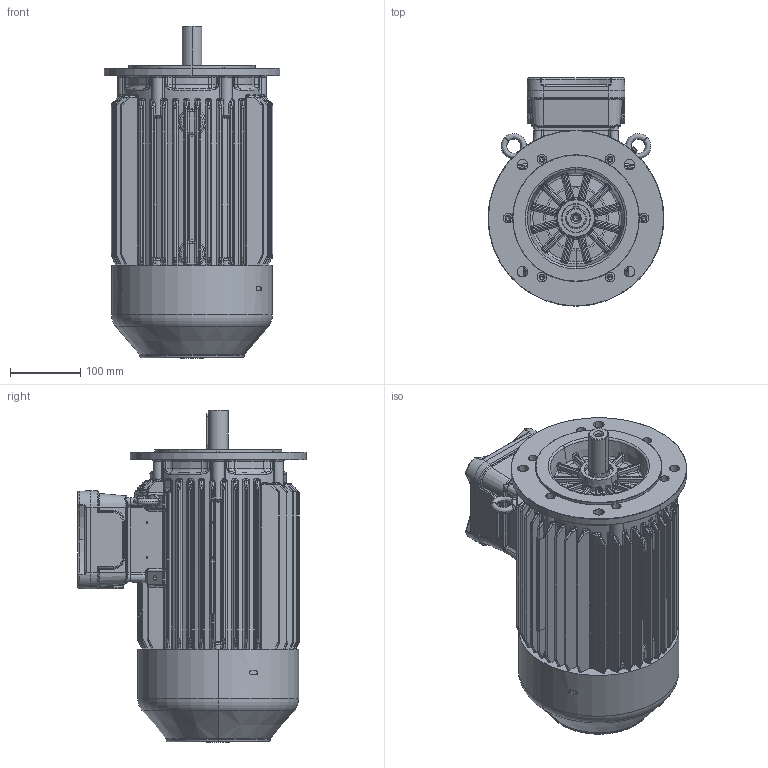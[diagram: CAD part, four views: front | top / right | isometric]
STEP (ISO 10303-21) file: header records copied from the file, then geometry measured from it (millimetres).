
FILE_DESCRIPTION (( 'STEP AP214' ), '1' );
FILE_NAME ('6RD100LB4E3 IM3001.STEP', '2021-07-30T13:03:00', ( '' ), ( '' ), 'SwSTEP 2.0', 'SolidWorks 2018', '' );
FILE_SCHEMA (( 'AUTOMOTIVE_DESIGN' ));
Length unit declared in the file: millimetre
Products named in the file (1): 6RD100LB4E3 IM3001
Bounding box: 250 x 324.5 x 471.6 mm (x, y, z)
Volume: 15423690.5 mm3; surface area: 757008.4 mm2
Topology: 1 solids, 30 shells, 3847 faces, 9232 edges, 5393 vertices
Faces by surface type: cylinder 1700, bspline 821, plane 663, torus 366, cone 163, sphere 134
Entity records: 171500 total; most frequent: CARTESIAN_POINT 87909, ORIENTED_EDGE 17960, DIRECTION 17369, EDGE_CURVE 8980, AXIS2_PLACEMENT_3D 7320, VERTEX_POINT 5391, CIRCLE 4293, EDGE_LOOP 4065
